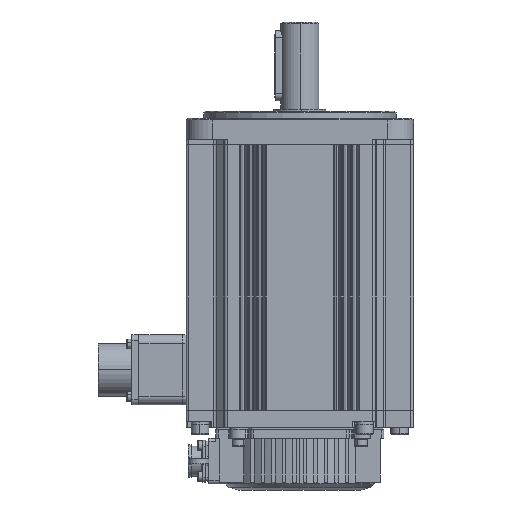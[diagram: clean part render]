
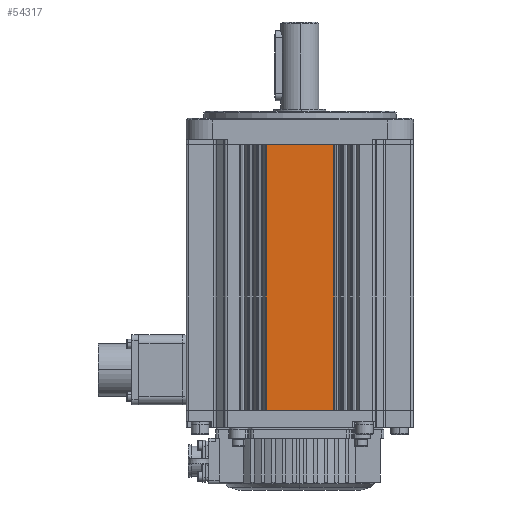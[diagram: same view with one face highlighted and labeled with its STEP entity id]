
A CAD part, front view. The second image highlights one B-rep face of the part: STEP entity #54317.
In plain terms, the highlighted planar face has unit normal (0, -1, 0).
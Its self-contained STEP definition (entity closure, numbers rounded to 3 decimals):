
#581 = EDGE_LOOP ( 'NONE', ( #47890, #1371, #28844, #47149 ) ) ;
#823 = VECTOR ( 'NONE', #22751, 1000. ) ;
#1200 = VERTEX_POINT ( 'NONE', #12824 ) ;
#1371 = ORIENTED_EDGE ( 'NONE', *, *, #24358, .F. ) ;
#2234 = LINE ( 'NONE', #44828, #823 ) ;
#2693 = CARTESIAN_POINT ( 'NONE',  ( 19.307, -65., -76. ) ) ;
#5223 = AXIS2_PLACEMENT_3D ( 'NONE', #22903, #9873, #41043 ) ;
#7759 = CARTESIAN_POINT ( 'NONE',  ( -19.307, -65., -76. ) ) ;
#9837 = DIRECTION ( 'NONE',  ( -1., 0., 0. ) ) ;
#9873 = DIRECTION ( 'NONE',  ( 0., 1., 0. ) ) ;
#11894 = VERTEX_POINT ( 'NONE', #43880 ) ;
#12824 = CARTESIAN_POINT ( 'NONE',  ( -19.307, -65., 76. ) ) ;
#12878 = CARTESIAN_POINT ( 'NONE',  ( 19.307, -65., -76. ) ) ;
#13574 = LINE ( 'NONE', #2693, #37266 ) ;
#16039 = VECTOR ( 'NONE', #52158, 1000. ) ;
#16224 = FACE_OUTER_BOUND ( 'NONE', #581, .T. ) ;
#16894 = VECTOR ( 'NONE', #9837, 1000. ) ;
#22751 = DIRECTION ( 'NONE',  ( -1., 0., 0. ) ) ;
#22903 = CARTESIAN_POINT ( 'NONE',  ( 0., -65., -76. ) ) ;
#24126 = VERTEX_POINT ( 'NONE', #12878 ) ;
#24358 = EDGE_CURVE ( 'NONE', #11894, #1200, #41145, .T. ) ;
#28844 = ORIENTED_EDGE ( 'NONE', *, *, #56128, .F. ) ;
#31879 = PLANE ( 'NONE',  #5223 ) ;
#33843 = DIRECTION ( 'NONE',  ( 0., 0., 1. ) ) ;
#36538 = EDGE_CURVE ( 'NONE', #43785, #1200, #53833, .T. ) ;
#37266 = VECTOR ( 'NONE', #33843, 1000. ) ;
#41003 = CARTESIAN_POINT ( 'NONE',  ( 0., -65., 76. ) ) ;
#41043 = DIRECTION ( 'NONE',  ( 0., 0., 1. ) ) ;
#41145 = LINE ( 'NONE', #7759, #16039 ) ;
#43785 = VERTEX_POINT ( 'NONE', #56708 ) ;
#43880 = CARTESIAN_POINT ( 'NONE',  ( -19.307, -65., -76. ) ) ;
#44828 = CARTESIAN_POINT ( 'NONE',  ( 0., -65., -76. ) ) ;
#47149 = ORIENTED_EDGE ( 'NONE', *, *, #47173, .T. ) ;
#47173 = EDGE_CURVE ( 'NONE', #24126, #43785, #13574, .T. ) ;
#47890 = ORIENTED_EDGE ( 'NONE', *, *, #36538, .T. ) ;
#52158 = DIRECTION ( 'NONE',  ( 0., 0., 1. ) ) ;
#53833 = LINE ( 'NONE', #41003, #16894 ) ;
#54317 = ADVANCED_FACE ( 'NONE', ( #16224 ), #31879, .F. ) ;
#56128 = EDGE_CURVE ( 'NONE', #24126, #11894, #2234, .T. ) ;
#56708 = CARTESIAN_POINT ( 'NONE',  ( 19.307, -65., 76. ) ) ;
